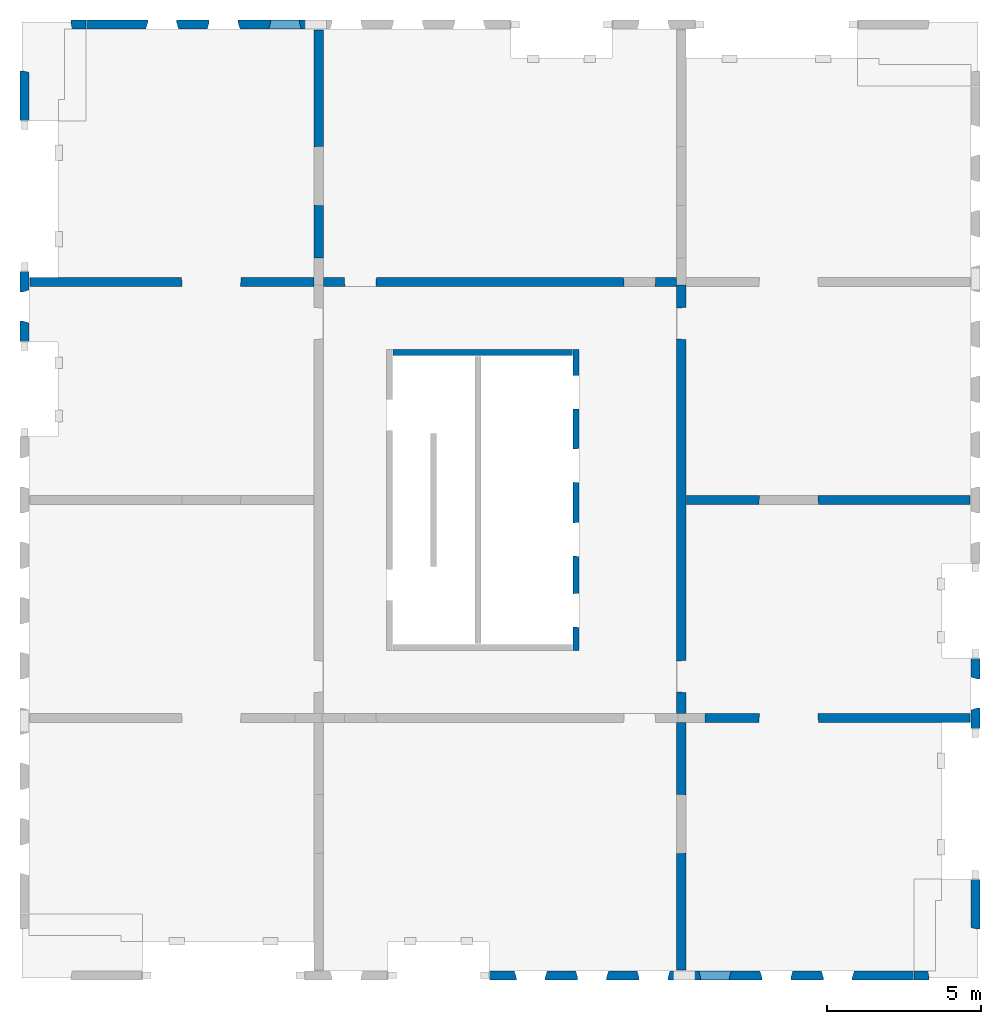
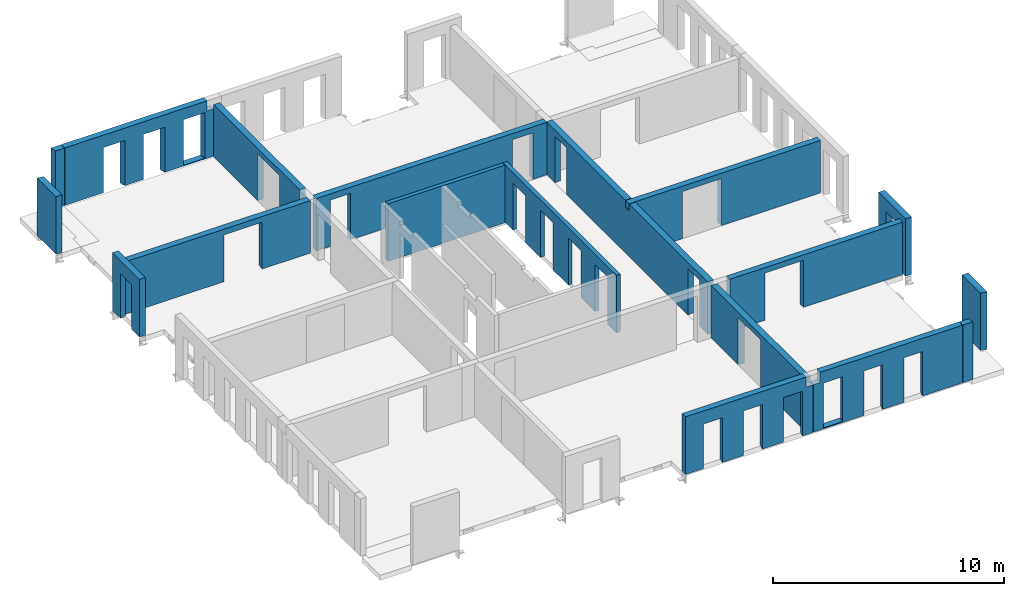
# One storey, part 3 of 4: 18 walls, 33 openings.
"""IFC2X3 building model written with IfcOpenShell, lengths in millimetres."""

import ifcopenshell
import ifcopenshell.guid

model = None  # the IFC model being written
_history = None  # IfcOwnerHistory: only IFC2X3 demands one
_inside = {}  # id of a spatial element -> (the spatial element, [elements in it])
_under = {}  # id of a project, library or spatial element -> (it, [spatial elements below it])
_declared = {}  # id of a project -> (the project, [libraries it declares])
_typed = {}  # id of a type object -> (the type object, [elements of that type])
_made_of = {}  # id of a material, layer set ... -> (it, [elements and type objects made of it])


def new_model(schema):
    """Start an empty IFC model of exactly this schema.

    Asked for "IFC4X3", IfcOpenShell would pick the latest addendum, in which some entities
    have other attributes; the version numbers below select the first issue.
    IFC2X3 requires an IfcOwnerHistory on every rooted entity: one is made here for all.
    """
    global model, _history
    if schema == "IFC4X3":
        model = ifcopenshell.file(schema_version=(4, 3, 0, 0))
    else:
        model = ifcopenshell.file(schema=schema)
    _inside.clear()
    _under.clear()
    _declared.clear()
    _typed.clear()
    _made_of.clear()
    _history = None
    if model.schema == "IFC2X3":
        org = make("IfcOrganization", Name="unknown")
        user = make(
            "IfcPersonAndOrganization",
            ThePerson=make("IfcPerson", FamilyName="unknown"),
            TheOrganization=org,
        )
        app = make(
            "IfcApplication",
            ApplicationDeveloper=org,
            Version="unknown",
            ApplicationFullName="unknown",
            ApplicationIdentifier="unknown",
        )
        _history = make(
            "IfcOwnerHistory",
            OwningUser=user,
            OwningApplication=app,
            ChangeAction="ADDED",
            CreationDate=0,
        )
    return model


def make(cls, **values):
    """One entity of the class cls with the attributes given. An attribute that is None is left unset."""
    return model.create_entity(
        cls, **{name: value for name, value in values.items() if value is not None}
    )


def entity(cls, *values):
    """Any entity or typed value of the class cls, its attributes in the order of the schema. None: left unset."""
    e = model.create_entity(cls)
    for i, value in enumerate(values):
        if value is not None:
            e[i] = value
    return e


def rooted(cls, **values):
    """An entity with a GlobalId (a new one), such as an element, a storey or a relation."""
    return make(cls, GlobalId=ifcopenshell.guid.new(), OwnerHistory=_history, **values)


def si_unit(unit_type, name, prefix=None):
    """IfcSIUnit, for example si_unit("LENGTHUNIT", "METRE", prefix="MILLI")."""
    return make("IfcSIUnit", UnitType=unit_type, Prefix=prefix, Name=name)


def converted_unit(unit_type, name, factor, base, dimensions=None, offset=None):
    """IfcConversionBasedUnit, such as the inch: factor (a typed value) times the base unit."""
    return make(
        "IfcConversionBasedUnit"
        if offset is None
        else "IfcConversionBasedUnitWithOffset",
        ConversionOffset=offset,
        Dimensions=None
        if dimensions is None
        else entity("IfcDimensionalExponents", *dimensions),
        UnitType=unit_type,
        Name=name,
        ConversionFactor=make(
            "IfcMeasureWithUnit", ValueComponent=factor, UnitComponent=base
        ),
    )


def derived_unit(unit_type, elements):
    """IfcDerivedUnit: a product of units, each with its exponent."""
    return make(
        "IfcDerivedUnit",
        Elements=[
            make("IfcDerivedUnitElement", Unit=unit, Exponent=power)
            for unit, power in elements
        ],
        UnitType=unit_type,
    )


def assignment(units):
    """IfcUnitAssignment: the units of a project."""
    return None if units is None else make("IfcUnitAssignment", Units=units)


def point(xyz):
    """IfcCartesianPoint."""
    return None if xyz is None else make("IfcCartesianPoint", Coordinates=xyz)


def direction(xyz):
    """IfcDirection."""
    return None if xyz is None else make("IfcDirection", DirectionRatios=xyz)


def frame(location, z_axis=None, x_axis=None):
    """IfcAxis2Placement3D, a coordinate frame: its origin and axes. An axis left out is left unset."""
    return make(
        "IfcAxis2Placement3D",
        Location=point(location),
        Axis=direction(z_axis),
        RefDirection=direction(x_axis),
    )


def frame_2d(location, x_axis=None):
    """IfcAxis2Placement2D, a coordinate frame in the plane: its origin and x axis."""
    return make(
        "IfcAxis2Placement2D", Location=point(location), RefDirection=direction(x_axis)
    )


def origin():
    """The frame at (0, 0, 0) with its axes left unset."""
    return frame((0.0, 0.0, 0.0))


def origin_2d_with_axis():
    """The frame at (0, 0) in the plane with the x axis (1, 0) written out."""
    return frame_2d((0.0, 0.0), x_axis=(1.0, 0.0))


def place(relative_to, where):
    """IfcLocalPlacement: puts the frame where relative to a parent placement (None: the world)."""
    return make(
        "IfcLocalPlacement", PlacementRelTo=relative_to, RelativePlacement=where
    )


def context(
    kind, dimensions, precision=None, world=None, true_north=None, identifier=None
):
    """IfcGeometricRepresentationContext, for example the 3D "Model" context."""
    return make(
        "IfcGeometricRepresentationContext",
        ContextIdentifier=identifier,
        ContextType=kind,
        CoordinateSpaceDimension=dimensions,
        Precision=precision,
        WorldCoordinateSystem=world,
        TrueNorth=true_north,
    )


def subcontext(parent, identifier, kind, view, scale=None):
    """IfcGeometricRepresentationSubContext, for example "Body" below "Model"."""
    return make(
        "IfcGeometricRepresentationSubContext",
        ContextIdentifier=identifier,
        ContextType=kind,
        ParentContext=parent,
        TargetScale=scale,
        TargetView=view,
    )


def project(units=None, contexts=None):
    """IfcProject with its units and contexts."""
    return rooted(
        "IfcProject",
        Name="project",
        RepresentationContexts=contexts,
        UnitsInContext=assignment(units),
    )


def spatial(cls, under=None, at=None, **own):
    """A site, building, storey or space (cls), placed at a placement, below another one or the project."""
    s = rooted(cls, ObjectPlacement=at, **own)
    if under is not None:
        _under.setdefault(under.id(), (under, []))[1].append(s)
    return s


def profile(cls, at=None, kind="AREA", **sizes):
    """A parametric profile (cls). Its sizes go by their IFC names, for example OverallWidth=200.0."""
    return make(cls, ProfileType=kind, Position=at, **sizes)


def rectangle(**sizes):
    """IfcRectangleProfileDef."""
    return profile("IfcRectangleProfileDef", **sizes)


def extrude(swept, where, along, depth):
    """IfcExtrudedAreaSolid: the profile swept, set in the frame where, extruded along a direction by depth."""
    return make(
        "IfcExtrudedAreaSolid",
        SweptArea=swept,
        Position=where,
        ExtrudedDirection=direction(along),
        Depth=depth,
    )


def faces_of(points, faces, orient=None, outer=None):
    """IfcFace entities. A face is a list of loops; a loop is a list of indices into points, from 0.

    orient and outer hold one flag for each loop. By default every Orientation is true, the
    first loop of a face is its IfcFaceOuterBound and the others are IfcFaceBound.
    """
    made = []
    for i, loops in enumerate(faces):
        bounds = []
        for j, loop in enumerate(loops):
            is_outer = j == 0 if outer is None else outer[i][j]
            bounds.append(
                make(
                    "IfcFaceOuterBound" if is_outer else "IfcFaceBound",
                    Bound=make("IfcPolyLoop", Polygon=[points[k] for k in loop]),
                    Orientation=True if orient is None else orient[i][j],
                )
            )
        made.append(make("IfcFace", Bounds=bounds))
    return made


def faceted_brep(points, faces, orient=None, outer=None, voids=None):
    """IfcFacetedBrep: a solid bounded by flat faces; with voids (closed shells), ...WithVoids."""
    shared = [point(p) for p in points]
    hull = make("IfcClosedShell", CfsFaces=faces_of(shared, faces, orient, outer))
    if voids is None:
        return make("IfcFacetedBrep", Outer=hull)
    return make(
        "IfcFacetedBrepWithVoids",
        Outer=hull,
        Voids=[
            make(cls, CfsFaces=faces_of(shared, fs, o, b)) for cls, fs, o, b in voids
        ],
    )


def shape(context_of_items, identifier, shape_type, items):
    """IfcShapeRepresentation: the items that make up one representation, for example the "Body"."""
    return make(
        "IfcShapeRepresentation",
        ContextOfItems=context_of_items,
        RepresentationIdentifier=identifier,
        RepresentationType=shape_type,
        Items=items,
    )


def material(Name=None, Category=None):
    """IfcMaterial."""
    return make("IfcMaterial", Name=Name, Category=Category)


def layer(
    of_material, thickness, ventilated=None, Name=None, Category=None, Priority=None
):
    """IfcMaterialLayer: one layer of a wall or slab, of a material (None: an air gap)."""
    return make(
        "IfcMaterialLayer",
        Material=of_material,
        LayerThickness=thickness,
        IsVentilated=ventilated,
        Name=Name,
        Category=Category,
        Priority=Priority,
    )


def layer_set(layers, Name=None):
    """IfcMaterialLayerSet."""
    return make("IfcMaterialLayerSet", MaterialLayers=layers, LayerSetName=Name)


def layer_usage(for_layer_set, set_direction, sense, offset, extent=None):
    """IfcMaterialLayerSetUsage: how a layer set lies in its element."""
    return make(
        "IfcMaterialLayerSetUsage",
        ForLayerSet=for_layer_set,
        LayerSetDirection=set_direction,
        DirectionSense=sense,
        OffsetFromReferenceLine=offset,
        ReferenceExtent=extent,
    )


def made_of(thing, what):
    """Note that an element or type object is made of a material, layer set ...; save() writes the relation."""
    if what is not None:
        _made_of.setdefault(what.id(), (what, []))[1].append(thing)
    return thing


def type_object(cls, material=None, **own):
    """A type object (cls), such as IfcWallType, which elements share."""
    return made_of(rooted(cls, **own), material)


def element(
    cls,
    number,
    at=None,
    inside=None,
    cuts=None,
    type_object=None,
    material=None,
    context=None,
    identifier="Body",
    shape_type=None,
    held_by="IfcProductDefinitionShape",
    body=None,
    shapes=None,
    **own,
):
    """One element of the class cls, such as IfcWall. Its Tag is "e" and its number.

    at: its placement. inside: the storey or other place that contains it. cuts: it is an
    opening in that element (IfcRelVoidsElement). A single representation is given by context,
    identifier, shape_type and body (its items); several are given by shapes. held_by: the class
    of the entity that holds the representations. save() writes the other relations.
    """
    e = rooted(cls, Tag="e%d" % number, ObjectPlacement=at, **own)
    if body is not None:
        shapes = [shape(context, identifier, shape_type, body)]
    if shapes is not None:
        e.Representation = make(held_by, Representations=shapes)
    if inside is not None:
        _inside.setdefault(inside.id(), (inside, []))[1].append(e)
    if cuts is not None:
        rooted(
            "IfcRelVoidsElement", RelatingBuildingElement=cuts, RelatedOpeningElement=e
        )
    if type_object is not None:
        _typed.setdefault(type_object.id(), (type_object, []))[1].append(e)
    return made_of(e, material)


def aggregate(whole, parts):
    """IfcRelAggregates: a whole, such as a stair, and the parts it consists of."""
    return rooted("IfcRelAggregates", RelatingObject=whole, RelatedObjects=parts)


def save(model, path):
    """Write the relations noted so far, then the file.

    IfcRelAggregates (storeys below a building ...), IfcRelContainedInSpatialStructure (elements
    in a storey), IfcRelDefinesByType, IfcRelAssociatesMaterial and IfcRelDeclares: one each for
    every whole, place, type object, material and project.
    """
    for whole, parts in _under.values():
        aggregate(whole, parts)
    for where, things in _inside.values():
        rooted(
            "IfcRelContainedInSpatialStructure",
            RelatedElements=things,
            RelatingStructure=where,
        )
    for kind, things in _typed.values():
        rooted("IfcRelDefinesByType", RelatedObjects=things, RelatingType=kind)
    for what, things in _made_of.values():
        rooted("IfcRelAssociatesMaterial", RelatedObjects=things, RelatingMaterial=what)
    for by, libraries in _declared.values():
        rooted("IfcRelDeclares", RelatingContext=by, RelatedDefinitions=libraries)
    model.write(path)


model = new_model("IFC2X3")

# Units and contexts
model_context = context("Model", 3, precision=0.01, world=origin(), true_north=direction((6.12303176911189e-17, 1.0)))
body_context = subcontext(model_context, "Body", "Model", "MODEL_VIEW")
ifc_project = project(units=[si_unit("LENGTHUNIT", "METRE", prefix="MILLI"), si_unit("AREAUNIT", "SQUARE_METRE"), si_unit("VOLUMEUNIT", "CUBIC_METRE"), converted_unit("PLANEANGLEUNIT", "DEGREE", entity("IfcRatioMeasure", 0.0174532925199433), si_unit("PLANEANGLEUNIT", "RADIAN"), dimensions=[0, 0, 0, 0, 0, 0, 0]), si_unit("MASSUNIT", "GRAM", prefix="KILO"), derived_unit("MASSDENSITYUNIT", [(si_unit("MASSUNIT", "GRAM", prefix="KILO"), 1), (si_unit("LENGTHUNIT", "METRE"), -3)]), si_unit("TIMEUNIT", "SECOND"), si_unit("FREQUENCYUNIT", "HERTZ"), si_unit("THERMODYNAMICTEMPERATUREUNIT", "DEGREE_CELSIUS"), derived_unit("THERMALTRANSMITTANCEUNIT", [(si_unit("MASSUNIT", "GRAM", prefix="KILO"), 1), (si_unit("THERMODYNAMICTEMPERATUREUNIT", "KELVIN"), -1), (si_unit("TIMEUNIT", "SECOND"), -3)]), derived_unit("VOLUMETRICFLOWRATEUNIT", [(si_unit("LENGTHUNIT", "METRE"), 3), (si_unit("TIMEUNIT", "SECOND"), -1)]), si_unit("ELECTRICCURRENTUNIT", "AMPERE"), si_unit("ELECTRICVOLTAGEUNIT", "VOLT"), si_unit("POWERUNIT", "WATT"), si_unit("FORCEUNIT", "NEWTON", prefix="KILO"), si_unit("ILLUMINANCEUNIT", "LUX"), si_unit("LUMINOUSFLUXUNIT", "LUMEN"), si_unit("LUMINOUSINTENSITYUNIT", "CANDELA"), derived_unit("USERDEFINED", [(si_unit("MASSUNIT", "GRAM", prefix="KILO"), -1), (si_unit("LENGTHUNIT", "METRE"), -2), (si_unit("TIMEUNIT", "SECOND"), 3), (si_unit("LUMINOUSFLUXUNIT", "LUMEN"), 1)]), derived_unit("LINEARVELOCITYUNIT", [(si_unit("LENGTHUNIT", "METRE"), 1), (si_unit("TIMEUNIT", "SECOND"), -1)]), si_unit("PRESSUREUNIT", "PASCAL"), derived_unit("USERDEFINED", [(si_unit("LENGTHUNIT", "METRE"), -2), (si_unit("MASSUNIT", "GRAM", prefix="KILO"), 1), (si_unit("TIMEUNIT", "SECOND"), -2)])], contexts=[model_context])

# Site, building, storey
site_placement = place(None, origin())
site = spatial("IfcSite", under=ifc_project, at=site_placement, Name="Default", CompositionType="ELEMENT")
building_placement = place(site_placement, origin())
building = spatial("IfcBuilding", under=site, at=building_placement, Name="niet gebruiken", CompositionType="ELEMENT")
storey_placement = place(building_placement, frame((0.0, 0.0, 131220.0)))
storey = spatial("IfcBuildingStorey", under=building, at=storey_placement, Name="42 tweeënveertigste verdieping", CompositionType="ELEMENT", Elevation=131220.0)

# Wall, openings
ifc_material = material(Name="NLRS_f2_beton prefab")
ifc_layer_1 = layer(ifc_material, 200.0)
ifc_layer_set_1 = layer_set([ifc_layer_1], Name="Basic Wall:NLRS_22.21_WA_beton prefab d=200_gen")
ifc_layer_usage_1 = layer_usage(ifc_layer_set_1, "AXIS2", "NEGATIVE", 100.0)
wall_type_1 = type_object("IfcWallType", Name="Basic Wall:NLRS_22.21_WA_beton prefab d=200_gen", PredefinedType="STANDARD", material=ifc_layer_set_1)
wall_1_placement = place(storey_placement, frame((144230.0, 22400.0, -50.0), z_axis=(0.0, 0.0, 1.0), x_axis=(0.0, -1.0, 0.0)))
wall_1 = element("IfcWallStandardCase", 1, at=wall_1_placement, inside=storey, type_object=wall_type_1, material=ifc_layer_usage_1, Name="Basic Wall:NLRS_22.21_WA_beton prefab d=200_gen", ObjectType="Basic Wall:NLRS_22.21_WA_beton prefab d=200_gen", context=body_context, shape_type="SweptSolid", body=[
    extrude(rectangle(XDim=9800.0, YDim=199.999999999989, at=frame_2d((4900.0, -3.69482222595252e-13), x_axis=(-1.0, 0.0))), origin(), (0.0, 0.0, 1.0), 3040.0),
])
opening_1_placement = place(wall_1_placement, frame((9047.0, -100.0, 0.0)))
element("IfcOpeningElement", 2, at=opening_1_placement, cuts=wall_1, Name="Basic Wall:NLRS_22.21_WA_beton prefab d=200_gen", ObjectType="Opening", context=body_context, shape_type="Brep", body=[
    faceted_brep([(-1104.0, 200.0, 2502.0), (-1104.0, 200.0, 0.0), (-1092.0, 0.0, 0.0), (-1092.0, 0.0, 2490.0), (0.0, 200.0, 0.0), (-12.0, 0.0, 0.0), (-12.0, 0.0, 2490.0), (0.0, 200.0, 2502.0)], [[[0, 1, 2, 3]], [[1, 4, 5, 2]], [[6, 3, 2, 5]], [[7, 4, 1, 0]], [[7, 0, 3, 6]], [[4, 7, 6, 5]]]),
])
opening_2_placement = place(wall_1_placement, frame((6737.0, -100.0, 0.0)))
element("IfcOpeningElement", 3, at=opening_2_placement, cuts=wall_1, Name="Basic Wall:NLRS_22.21_WA_beton prefab d=200_gen", ObjectType="Opening", context=body_context, shape_type="Brep", body=[
    faceted_brep([(-1104.0, 200.0, 2502.0), (-1104.0, 200.0, 0.0), (-1092.0, 0.0, 0.0), (-1092.0, 0.0, 2490.0), (0.0, 200.0, 0.0), (-12.0, 0.0, 0.0), (-12.0, 0.0, 2490.0), (0.0, 200.0, 2502.0)], [[[0, 1, 2, 3]], [[1, 4, 5, 2]], [[6, 3, 2, 5]], [[7, 4, 1, 0]], [[7, 0, 3, 6]], [[4, 7, 6, 5]]]),
])
opening_3_placement = place(wall_1_placement, frame((4332.0, -100.0, 0.0)))
element("IfcOpeningElement", 4, at=opening_3_placement, cuts=wall_1, Name="Basic Wall:NLRS_22.21_WA_beton prefab d=200_gen", ObjectType="Opening", context=body_context, shape_type="Brep", body=[
    faceted_brep([(-1104.0, 200.0, 2502.0), (-1104.0, 200.0, 0.0), (-1092.0, 0.0, 0.0), (-1092.0, 0.0, 2490.0), (0.0, 200.0, 0.0), (-12.0, 0.0, 0.0), (-12.0, 0.0, 2490.0), (0.0, 200.0, 2502.0)], [[[0, 1, 2, 3]], [[1, 4, 5, 2]], [[6, 3, 2, 5]], [[7, 4, 1, 0]], [[7, 0, 3, 6]], [[4, 7, 6, 5]]]),
])
opening_4_placement = place(wall_1_placement, frame((1942.0, -100.0, 0.0)))
element("IfcOpeningElement", 5, at=opening_4_placement, cuts=wall_1, Name="Basic Wall:NLRS_22.21_WA_beton prefab d=200_gen", ObjectType="Opening", context=body_context, shape_type="Brep", body=[
    faceted_brep([(-1104.0, 200.0, 2502.0), (-1104.0, 200.0, 0.0), (-1092.0, 0.0, 0.0), (-1092.0, 0.0, 2490.0), (0.0, 200.0, 0.0), (-12.0, 0.0, 0.0), (-12.0, 0.0, 2490.0), (0.0, 200.0, 2502.0)], [[[0, 1, 2, 3]], [[1, 4, 5, 2]], [[6, 3, 2, 5]], [[7, 4, 1, 0]], [[7, 0, 3, 6]], [[4, 7, 6, 5]]]),
])

# Wall
ifc_layer_usage_2 = layer_usage(ifc_layer_set_1, "AXIS2", "NEGATIVE", 100.0)
wall_2_placement = place(storey_placement, frame((138270.0, 22300.0, -50.0)))
element("IfcWallStandardCase", 6, at=wall_2_placement, inside=storey, type_object=wall_type_1, material=ifc_layer_usage_2, Name="Basic Wall:NLRS_22.21_WA_beton prefab d=200_gen", ObjectType="Basic Wall:NLRS_22.21_WA_beton prefab d=200_gen", context=body_context, shape_type="SweptSolid", body=[
    extrude(rectangle(XDim=5839.99999999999, YDim=199.999999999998, at=frame_2d((2919.99999999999, -7.60280727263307e-13), x_axis=(-1.0, 0.0))), origin(), (0.0, 0.0, 1.0), 3040.0),
])

# Wall, opening
ifc_layer_2 = layer(ifc_material, 300.0)
ifc_layer_set_2 = layer_set([ifc_layer_2], Name="Basic Wall:NLRS_22.21_WA_beton prefab d=300_gen")
ifc_layer_usage_3 = layer_usage(ifc_layer_set_2, "AXIS2", "NEGATIVE", 150.0)
wall_type_2 = type_object("IfcWallType", Name="Basic Wall:NLRS_22.21_WA_beton prefab d=300_gen", PredefinedType="STANDARD", material=ifc_layer_set_2)
wall_3_placement = place(storey_placement, frame((147650.0, 10250.0, -70.0), z_axis=(0.0, 0.0, 1.0), x_axis=(0.0, -1.0, 0.0)))
wall_3 = element("IfcWallStandardCase", 7, at=wall_3_placement, inside=storey, type_object=wall_type_2, material=ifc_layer_usage_3, Name="Basic Wall:NLRS_22.21_WA_beton prefab d=300_gen", ObjectType="Basic Wall:NLRS_22.21_WA_beton prefab d=300_gen", context=body_context, shape_type="SweptSolid", body=[
    extrude(rectangle(XDim=8059.99999999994, YDim=300.000000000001, at=frame_2d((4029.99999999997, 3.69482222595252e-13), x_axis=(-1.0, 0.0))), origin(), (0.0, 0.0, 1.0), 2769.99999999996),
])
opening_5_placement = place(wall_3_placement, frame((4268.0, -150.0, 0.0)))
element("IfcOpeningElement", 8, at=opening_5_placement, cuts=wall_3, Name="Basic Wall:NLRS_22.21_WA_beton prefab d=300_gen", ObjectType="Opening", context=body_context, shape_type="Brep", body=[
    faceted_brep([(-18.0, 300.0, 2470.0), (-18.0, 300.0, 0.0), (-1918.0, 300.0, 0.0), (-1918.0, 300.0, 2470.0), (0.0, 0.0, 2488.0), (-1936.0, 0.0, 2488.0), (-1936.0, 0.0, 0.0), (0.0, 0.0, 0.0)], [[[0, 1, 2, 3]], [[4, 5, 6, 7]], [[4, 0, 3, 5]], [[5, 3, 2, 6]], [[6, 2, 1, 7]], [[7, 1, 0, 4]]]),
])

# Wall, openings
ifc_layer_usage_4 = layer_usage(ifc_layer_set_2, "AXIS2", "NEGATIVE", 150.0)
wall_4_placement = place(storey_placement, frame((157060.0, 17500.0, -70.0), z_axis=(0.0, 0.0, 1.0), x_axis=(-1.0, 0.0, 0.0)))
wall_4 = element("IfcWallStandardCase", 9, at=wall_4_placement, inside=storey, type_object=wall_type_2, material=ifc_layer_usage_4, Name="Basic Wall:NLRS_22.21_WA_beton prefab d=300_gen", ObjectType="Basic Wall:NLRS_22.21_WA_beton prefab d=300_gen", context=body_context, shape_type="SweptSolid", body=[
    extrude(rectangle(XDim=9559.9999999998, YDim=300.000000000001, at=frame_2d((4779.9999999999, -1.84741111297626e-13), x_axis=(-1.0, 0.0))), origin(), (0.0, 0.0, 1.0), 2770.00000000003),
])
opening_6_placement = place(wall_4_placement, frame((6878.0, 150.0, 0.0)))
element("IfcOpeningElement", 10, at=opening_6_placement, cuts=wall_4, Name="Basic Wall:NLRS_22.21_WA_beton prefab d=300_gen", ObjectType="Opening", context=body_context, shape_type="Brep", body=[
    faceted_brep([(-18.0, -300.0, 2470.0), (-1918.0, -300.0, 2470.0), (-1918.0, -300.0, 0.0), (-18.0, -300.0, 0.0), (0.0, 0.0, 2488.0), (0.0, 0.0, 0.0), (-1936.0, 0.0, 0.0), (-1936.0, 0.0, 2488.0)], [[[0, 1, 2, 3]], [[4, 5, 6, 7]], [[4, 7, 1, 0]], [[7, 6, 2, 1]], [[6, 5, 3, 2]], [[5, 4, 0, 3]]]),
])
opening_7_placement = place(wall_4_placement, origin())
element("IfcOpeningElement", 11, at=opening_7_placement, cuts=wall_4, Name="Basic Wall:NLRS_22.21_WA_beton prefab d=300_gen", ObjectType="Opening", context=body_context, shape_type="SweptSolid", body=[
    extrude(rectangle(XDim=2440.0, YDim=319.999999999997, at=frame_2d((0.0, 0.0), x_axis=(0.0, 1.0))), frame((9400.0, 150.0, 1220.0), z_axis=(0.0, -1.0, 0.0), x_axis=(1.0, 0.0, 0.0)), (0.0, 0.0, 1.0), 300.0),
])

# Wall, opening
ifc_layer_usage_5 = layer_usage(ifc_layer_set_2, "AXIS2", "NEGATIVE", 150.0)
wall_5_placement = place(storey_placement, frame((135700.0, 24600.0, -70.0), z_axis=(0.0, 0.0, 1.0), x_axis=(-1.0, 0.0, 0.0)))
wall_5 = element("IfcWallStandardCase", 12, at=wall_5_placement, inside=storey, type_object=wall_type_2, material=ifc_layer_usage_5, Name="Basic Wall:NLRS_22.21_WA_beton prefab d=300_gen", ObjectType="Basic Wall:NLRS_22.21_WA_beton prefab d=300_gen", context=body_context, shape_type="SweptSolid", body=[
    extrude(rectangle(XDim=9259.99999999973, YDim=300.000000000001, at=frame_2d((4629.99999999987, -2.41584530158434e-13), x_axis=(-1.0, 0.0))), origin(), (0.0, 0.0, 1.0), 2769.99999999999),
])
opening_8_placement = place(wall_5_placement, frame((4318.0, 150.0, 0.0)))
element("IfcOpeningElement", 13, at=opening_8_placement, cuts=wall_5, Name="Basic Wall:NLRS_22.21_WA_beton prefab d=300_gen", ObjectType="Opening", context=body_context, shape_type="Brep", body=[
    faceted_brep([(-1918.0, 0.0, 2470.0), (-18.0, 0.0, 2470.0), (-18.0, 0.0, 0.0), (-1918.0, 0.0, 0.0), (-1936.0, -300.0, 2488.0), (-1936.0, -300.0, 0.0), (0.0, -300.0, 0.0), (0.0, -300.0, 2488.0)], [[[0, 1, 2, 3]], [[4, 5, 6, 7]], [[4, 7, 1, 0]], [[7, 6, 2, 1]], [[6, 5, 3, 2]], [[5, 4, 0, 3]]]),
])

ifc_layer_usage_6 = layer_usage(ifc_layer_set_2, "AXIS2", "NEGATIVE", 150.0)
wall_6_placement = place(storey_placement, frame((148430.0, 10400.0, -70.0)))
wall_6 = element("IfcWallStandardCase", 14, at=wall_6_placement, inside=storey, type_object=wall_type_2, material=ifc_layer_usage_6, Name="Basic Wall:NLRS_22.21_WA_beton prefab d=300_gen", ObjectType="Basic Wall:NLRS_22.21_WA_beton prefab d=300_gen", context=body_context, shape_type="SweptSolid", body=[
    extrude(rectangle(XDim=8630.00000000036, YDim=300.000000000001, at=frame_2d((4315.00000000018, 0.0), x_axis=(-1.0, 0.0))), origin(), (0.0, 0.0, 1.0), 2769.99999999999),
])
opening_9_placement = place(wall_6_placement, frame((1752.0, -150.0, 0.0)))
element("IfcOpeningElement", 15, at=opening_9_placement, cuts=wall_6, Name="Basic Wall:NLRS_22.21_WA_beton prefab d=300_gen", ObjectType="Opening", context=body_context, shape_type="Brep", body=[
    faceted_brep([(18.0, 300.0, 2470.0), (1918.0, 300.0, 2470.0), (1918.0, 300.0, 0.0), (18.0, 300.0, 0.0), (0.0, 0.0, 2488.0), (0.0, 0.0, 0.0), (1936.0, 0.0, 0.0), (1936.0, 0.0, 2488.0)], [[[0, 1, 2, 3]], [[4, 5, 6, 7]], [[4, 7, 1, 0]], [[7, 6, 2, 1]], [[6, 5, 3, 2]], [[5, 4, 0, 3]]]),
])

ifc_layer_usage_7 = layer_usage(ifc_layer_set_2, "AXIS2", "NEGATIVE", 150.0)
wall_7_placement = place(storey_placement, frame((135850.0, 25380.0, -70.0), z_axis=(0.0, 0.0, 1.0), x_axis=(0.0, 1.0, 0.0)))
wall_7 = element("IfcWallStandardCase", 16, at=wall_7_placement, inside=storey, type_object=wall_type_2, material=ifc_layer_usage_7, Name="Basic Wall:NLRS_22.21_WA_beton prefab d=300_gen", ObjectType="Basic Wall:NLRS_22.21_WA_beton prefab d=300_gen", context=body_context, shape_type="SweptSolid", body=[
    extrude(rectangle(XDim=7430.00000000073, YDim=300.000000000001, at=frame_2d((3715.00000000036, -5.62749846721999e-12), x_axis=(-1.0, 0.0))), origin(), (0.0, 0.0, 1.0), 2769.99999999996),
])
opening_10_placement = place(wall_7_placement, frame((1702.0, 150.0, 0.0)))
element("IfcOpeningElement", 17, at=opening_10_placement, cuts=wall_7, Name="Basic Wall:NLRS_22.21_WA_beton prefab d=300_gen", ObjectType="Opening", context=body_context, shape_type="Brep", body=[
    faceted_brep([(1918.0, 0.0, 2470.0), (1918.0, 0.0, 0.0), (18.0, 0.0, 0.0), (18.0, 0.0, 2470.0), (1936.0, -300.0, 2488.0), (0.0, -300.0, 2488.0), (0.0, -300.0, 0.0), (1936.0, -300.0, 0.0)], [[[0, 1, 2, 3]], [[4, 5, 6, 7]], [[4, 0, 3, 5]], [[5, 3, 2, 6]], [[6, 2, 1, 7]], [[7, 1, 0, 4]]]),
])

# Wall, openings
ifc_layer_usage_8 = layer_usage(ifc_layer_set_2, "AXIS2", "NEGATIVE", 150.0)
wall_8_placement = place(storey_placement, frame((147650.0, 24500.0, -70.0), z_axis=(0.0, 0.0, 1.0), x_axis=(0.0, -1.0, 0.0)))
wall_8 = element("IfcWallStandardCase", 18, at=wall_8_placement, inside=storey, type_object=wall_type_2, material=ifc_layer_usage_8, Name="Basic Wall:NLRS_22.21_WA_beton prefab d=300_gen", ObjectType="Basic Wall:NLRS_22.21_WA_beton prefab d=300_gen", context=body_context, shape_type="SweptSolid", body=[
    extrude(rectangle(XDim=13949.9999999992, YDim=300.000000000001, at=frame_2d((6974.9999999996, 4.2632564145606e-14), x_axis=(-1.0, 0.0))), origin(), (0.0, 0.0, 1.0), 2770.00000000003),
])
opening_11_placement = place(wall_8_placement, frame((13268.0, -150.0, 0.0)))
element("IfcOpeningElement", 19, at=opening_11_placement, cuts=wall_8, Name="Basic Wall:NLRS_22.21_WA_beton prefab d=300_gen", ObjectType="Opening", context=body_context, shape_type="Brep", body=[
    faceted_brep([(-1042.0, 300.0, 2466.0), (-1042.0, 300.0, 0.0), (-1024.0, 0.0, 0.0), (-1024.0, 0.0, 2448.0), (0.0, 300.0, 0.0), (-18.0, 0.0, 0.0), (-18.0, 0.0, 2448.0), (0.0, 300.0, 2466.0)], [[[0, 1, 2, 3]], [[1, 4, 5, 2]], [[6, 3, 2, 5]], [[7, 4, 1, 0]], [[7, 0, 3, 6]], [[4, 7, 6, 5]]]),
])
opening_12_placement = place(wall_8_placement, frame((1774.0, -150.0, 0.0)))
element("IfcOpeningElement", 20, at=opening_12_placement, cuts=wall_8, Name="Basic Wall:NLRS_22.21_WA_beton prefab d=300_gen", ObjectType="Opening", context=body_context, shape_type="Brep", body=[
    faceted_brep([(-1042.0, 300.0, 2466.0), (-1042.0, 300.0, 0.0), (-1024.0, 0.0, 0.0), (-1024.0, 0.0, 2448.0), (0.0, 300.0, 0.0), (-18.0, 0.0, 0.0), (-18.0, 0.0, 2448.0), (0.0, 300.0, 2466.0)], [[[0, 1, 2, 3]], [[1, 4, 5, 2]], [[6, 3, 2, 5]], [[7, 4, 1, 0]], [[7, 0, 3, 6]], [[4, 7, 6, 5]]]),
])
opening_13_placement = place(wall_8_placement, origin())
element("IfcOpeningElement", 21, at=opening_13_placement, cuts=wall_8, Name="Basic Wall:NLRS_22.21_WA_beton prefab d=300_gen", ObjectType="Opening", context=body_context, shape_type="SweptSolid", body=[
    extrude(rectangle(XDim=350.000000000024, YDim=340.000000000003, at=frame_2d((-1.08002495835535e-12, -1.73230318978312e-11), x_axis=(0.0, 1.0))), frame((7000.0, 150.0, 2595.0), z_axis=(0.0, -1.0, 0.0), x_axis=(-1.0, 0.0, 0.0)), (0.0, 0.0, 1.0), 300.0),
])

ifc_layer_usage_9 = layer_usage(ifc_layer_set_2, "AXIS2", "NEGATIVE", 150.0)
wall_9_placement = place(storey_placement, frame((136000.0, 24600.0, -70.0)))
wall_9 = element("IfcWallStandardCase", 22, at=wall_9_placement, inside=storey, type_object=wall_type_2, material=ifc_layer_usage_9, Name="Basic Wall:NLRS_22.21_WA_beton prefab d=300_gen", ObjectType="Basic Wall:NLRS_22.21_WA_beton prefab d=300_gen", context=body_context, shape_type="SweptSolid", body=[
    extrude(rectangle(XDim=11500.0, YDim=300.000000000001, at=frame_2d((5750.0, -1.08002495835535e-12), x_axis=(-1.0, 0.0))), origin(), (0.0, 0.0, 1.0), 2769.99999999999),
])
opening_14_placement = place(wall_9_placement, frame((682.0, -150.0, 0.0)))
element("IfcOpeningElement", 23, at=opening_14_placement, cuts=wall_9, Name="Basic Wall:NLRS_22.21_WA_beton prefab d=300_gen", ObjectType="Opening", context=body_context, shape_type="Brep", body=[
    faceted_brep([(0.0, 300.0, 2466.0), (0.0, 300.0, 0.0), (18.0, 0.0, 0.0), (18.0, 0.0, 2448.0), (1042.0, 300.0, 0.0), (1024.0, 0.0, 0.0), (1024.0, 0.0, 2448.0), (1042.0, 300.0, 2466.0)], [[[0, 1, 2, 3]], [[1, 4, 5, 2]], [[6, 3, 2, 5]], [[7, 4, 1, 0]], [[7, 0, 3, 6]], [[4, 7, 6, 5]]]),
])
opening_15_placement = place(wall_9_placement, frame((9776.0, -150.0, 0.0)))
element("IfcOpeningElement", 24, at=opening_15_placement, cuts=wall_9, Name="Basic Wall:NLRS_22.21_WA_beton prefab d=300_gen", ObjectType="Opening", context=body_context, shape_type="Brep", body=[
    faceted_brep([(0.0, 300.0, 2466.0), (0.0, 300.0, 0.0), (18.0, 0.0, 0.0), (18.0, 0.0, 2448.0), (1042.0, 300.0, 0.0), (1024.0, 0.0, 0.0), (1024.0, 0.0, 2448.0), (1042.0, 300.0, 2466.0)], [[[0, 1, 2, 3]], [[1, 4, 5, 2]], [[6, 3, 2, 5]], [[7, 4, 1, 0]], [[7, 0, 3, 6]], [[4, 7, 6, 5]]]),
])

# Wall, opening
ifc_layer_3 = layer(ifc_material, 300.0)
ifc_layer_set_3 = layer_set([ifc_layer_3], Name="Basic Wall:NLRS_21.21_WA_beton prefab d=300/320_gen")
ifc_layer_usage_10 = layer_usage(ifc_layer_set_3, "AXIS2", "NEGATIVE", 150.0)
wall_type_3 = type_object("IfcWallType", Name="Basic Wall:NLRS_21.21_WA_beton prefab d=300/320_gen", PredefinedType="STANDARD", material=ifc_layer_set_3)
wall_10_placement = place(storey_placement, frame((157230.0, 12360.0, -50.0), z_axis=(0.0, 0.0, 1.0), x_axis=(0.0, -1.0, 0.0)))
wall_10 = element("IfcWallStandardCase", 25, at=wall_10_placement, inside=storey, type_object=wall_type_3, material=ifc_layer_usage_10, Name="Basic Wall:NLRS_21.21_WA_beton prefab d=300/320_gen", ObjectType="Basic Wall:NLRS_21.21_WA_beton prefab d=300/320_gen", context=body_context, shape_type="SweptSolid", body=[
    extrude(rectangle(XDim=2320.00000000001, YDim=300.000000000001, at=frame_2d((1160.0, -8.38440428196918e-12), x_axis=(-1.0, 0.0))), origin(), (0.0, 0.0, 1.0), 3040.0),
])
opening_16_placement = place(wall_10_placement, frame((1695.0, -150.0, -20.0)))
element("IfcOpeningElement", 26, at=opening_16_placement, cuts=wall_10, Name="Basic Wall:NLRS_21.21_WA_beton prefab d=300/320_gen", ObjectType="Opening", context=body_context, shape_type="Brep", body=[
    faceted_brep([(-1070.0, 0.0, 2405.0), (-1070.0, 0.0, 0.0), (0.0, 0.0, 0.0), (0.0, 0.0, 2405.0), (-65.0, 219.0, 2370.0), (-1005.0, 219.0, 2370.0), (-65.0, 219.0, 0.0), (-1005.0, 219.0, 0.0), (-1005.0, 300.0, 0.0), (-65.0, 300.0, 0.0), (-1005.0, 300.0, 2370.0), (-65.0, 300.0, 2370.0)], [[[0, 1, 2, 3]], [[3, 4, 5, 0]], [[2, 6, 4, 3]], [[1, 7, 8, 9, 6, 2]], [[0, 5, 7, 1]], [[10, 11, 9, 8]], [[10, 5, 4, 11]], [[11, 4, 6, 9]], [[8, 7, 5, 10]]]),
])

ifc_layer_usage_11 = layer_usage(ifc_layer_set_3, "AXIS2", "NEGATIVE", 150.0)
wall_11_placement = place(storey_placement, frame((126270.0, 22640.0, -50.0), z_axis=(0.0, 0.0, 1.0), x_axis=(0.0, 1.0, 0.0)))
wall_11 = element("IfcWallStandardCase", 27, at=wall_11_placement, inside=storey, type_object=wall_type_3, material=ifc_layer_usage_11, Name="Basic Wall:NLRS_21.21_WA_beton prefab d=300/320_gen", ObjectType="Basic Wall:NLRS_21.21_WA_beton prefab d=300/320_gen", context=body_context, shape_type="SweptSolid", body=[
    extrude(rectangle(XDim=2320.0, YDim=300.000000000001, at=frame_2d((1160.0, -3.60955709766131e-12), x_axis=(-1.0, 0.0))), origin(), (0.0, 0.0, 1.0), 3040.0),
])
opening_17_placement = place(wall_11_placement, frame((625.0, 150.0, -20.0)))
element("IfcOpeningElement", 28, at=opening_17_placement, cuts=wall_11, Name="Basic Wall:NLRS_21.21_WA_beton prefab d=300/320_gen", ObjectType="Opening", context=body_context, shape_type="Brep", body=[
    faceted_brep([(0.0, -300.0, 2405.0), (0.0, -300.0, 0.0), (1070.0, -300.0, 0.0), (1070.0, -300.0, 2405.0), (1005.0, -81.0, 2370.0), (65.0, -81.0, 2370.0), (1005.0, -81.0, 0.0), (65.0, -81.0, 0.0), (65.0, 0.0, 0.0), (1005.0, 0.0, 0.0), (65.0, 0.0, 2370.0), (1005.0, 0.0, 2370.0)], [[[0, 1, 2, 3]], [[3, 4, 5, 0]], [[2, 6, 4, 3]], [[1, 7, 8, 9, 6, 2]], [[0, 5, 7, 1]], [[10, 11, 9, 8]], [[10, 5, 4, 11]], [[11, 4, 6, 9]], [[8, 7, 5, 10]]]),
])

# Wall, openings
ifc_layer_usage_12 = layer_usage(ifc_layer_set_3, "AXIS2", "NEGATIVE", 150.0)
wall_12_placement = place(storey_placement, frame((128290.0, 32980.0, -50.0)))
wall_12 = element("IfcWallStandardCase", 29, at=wall_12_placement, inside=storey, type_object=wall_type_3, material=ifc_layer_usage_12, Name="Basic Wall:NLRS_21.21_WA_beton prefab d=300/320_gen", ObjectType="Basic Wall:NLRS_21.21_WA_beton prefab d=300/320_gen", context=body_context, shape_type="SweptSolid", body=[
    extrude(rectangle(XDim=7449.9999999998, YDim=300.000000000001, at=frame_2d((3724.9999999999, 0.0), x_axis=(-1.0, 0.0))), origin(), (0.0, 0.0, 1.0), 3040.0),
])
opening_18_placement = place(wall_12_placement, frame((3925.0, -150.0, -20.0)))
element("IfcOpeningElement", 30, at=opening_18_placement, cuts=wall_12, Name="Basic Wall:NLRS_21.21_WA_beton prefab d=300/320_gen", ObjectType="Opening", context=body_context, shape_type="Brep", body=[
    faceted_brep([(1070.0, 0.0, 2405.0), (0.0, 0.0, 2405.0), (0.0, 0.0, 0.0), (1070.0, 0.0, 0.0), (1005.0, 219.0, 2370.0), (65.0, 219.0, 2370.0), (65.0, 219.0, 0.0), (65.0, 300.0, 0.0), (1005.0, 300.0, 0.0), (1005.0, 219.0, 0.0), (1005.0, 300.0, 2370.0), (65.0, 300.0, 2370.0)], [[[0, 1, 2, 3]], [[1, 0, 4, 5]], [[2, 1, 5, 6]], [[3, 2, 6, 7, 8, 9]], [[0, 3, 9, 4]], [[10, 8, 7, 11]], [[10, 11, 5, 4]], [[11, 7, 6, 5]], [[8, 10, 4, 9]]]),
])
opening_19_placement = place(wall_12_placement, frame((1925.0, -150.0, -20.0)))
element("IfcOpeningElement", 31, at=opening_19_placement, cuts=wall_12, Name="Basic Wall:NLRS_21.21_WA_beton prefab d=300/320_gen", ObjectType="Opening", context=body_context, shape_type="Brep", body=[
    faceted_brep([(1070.0, 0.0, 2405.0), (0.0, 0.0, 2405.0), (0.0, 0.0, 0.0), (1070.0, 0.0, 0.0), (1005.0, 219.0, 2370.0), (65.0, 219.0, 2370.0), (65.0, 219.0, 0.0), (65.0, 300.0, 0.0), (1005.0, 300.0, 0.0), (1005.0, 219.0, 0.0), (1005.0, 300.0, 2370.0), (65.0, 300.0, 2370.0)], [[[0, 1, 2, 3]], [[1, 0, 4, 5]], [[2, 1, 5, 6]], [[3, 2, 6, 7, 8, 9]], [[0, 3, 9, 4]], [[10, 8, 7, 11]], [[10, 11, 5, 4]], [[11, 7, 6, 5]], [[8, 10, 4, 9]]]),
])
opening_20_placement = place(wall_12_placement, frame((5925.0, -150.0, 50.0)))
element("IfcOpeningElement", 32, at=opening_20_placement, cuts=wall_12, Name="Basic Wall:NLRS_21.21_WA_beton prefab d=300/320_gen", ObjectType="Opening", context=body_context, shape_type="Brep", body=[
    faceted_brep([(1070.0, 0.0, 2405.0), (0.0, 0.0, 2405.0), (0.0, 0.0, 0.0), (1070.0, 0.0, 0.0), (1005.0, 219.0, 2370.0), (65.0, 219.0, 2370.0), (65.0, 219.0, 0.0), (65.0, 300.0, 0.0), (1005.0, 300.0, 0.0), (1005.0, 219.0, 0.0), (1005.0, 300.0, 2370.0), (65.0, 300.0, 2370.0)], [[[0, 1, 2, 3]], [[1, 0, 4, 5]], [[2, 1, 5, 6]], [[3, 2, 6, 7, 8, 9]], [[0, 3, 9, 4]], [[10, 8, 7, 11]], [[10, 11, 5, 4]], [[11, 7, 6, 5]], [[8, 10, 4, 9]]]),
])
opening_21_placement = place(wall_12_placement, origin())
element("IfcOpeningElement", 33, at=opening_21_placement, cuts=wall_12, Name="Basic Wall:NLRS_21.21_WA_beton prefab d=300/320_gen", ObjectType="Opening", context=body_context, shape_type="SweptSolid", body=[
    extrude(rectangle(XDim=535.0, YDim=344.999999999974, at=origin_2d_with_axis()), frame((7277.49999999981, 150.0, 2772.5), z_axis=(0.0, -1.0, 0.0), x_axis=(0.0, 0.0, 1.0)), (0.0, 0.0, 1.0), 300.0),
])

ifc_layer_usage_13 = layer_usage(ifc_layer_set_3, "AXIS2", "NEGATIVE", 150.0)
wall_13_placement = place(storey_placement, frame((155210.0, 2020.0, -50.0), z_axis=(0.0, 0.0, 1.0), x_axis=(-1.0, 0.0, 0.0)))
wall_13 = element("IfcWallStandardCase", 34, at=wall_13_placement, inside=storey, type_object=wall_type_3, material=ifc_layer_usage_13, Name="Basic Wall:NLRS_21.21_WA_beton prefab d=300/320_gen", ObjectType="Basic Wall:NLRS_21.21_WA_beton prefab d=300/320_gen", context=body_context, shape_type="SweptSolid", body=[
    extrude(rectangle(XDim=7449.99999999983, YDim=300.0, at=frame_2d((3724.99999999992, 5.6843418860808e-14), x_axis=(-1.0, 0.0))), origin(), (0.0, 0.0, 1.0), 3040.0),
])
opening_22_placement = place(wall_13_placement, frame((4995.0, 150.0, -20.0)))
element("IfcOpeningElement", 35, at=opening_22_placement, cuts=wall_13, Name="Basic Wall:NLRS_21.21_WA_beton prefab d=300/320_gen", ObjectType="Opening", context=body_context, shape_type="Brep", body=[
    faceted_brep([(0.0, -300.0, 2405.0), (-1070.0, -300.0, 2405.0), (-1070.0, -300.0, 0.0), (0.0, -300.0, 0.0), (-65.0, -81.0, 2370.0), (-1005.0, -81.0, 2370.0), (-1005.0, -81.0, 0.0), (-1005.0, 0.0, 0.0), (-65.0, 0.0, 0.0), (-65.0, -81.0, 0.0), (-65.0, 0.0, 2370.0), (-1005.0, 0.0, 2370.0)], [[[0, 1, 2, 3]], [[1, 0, 4, 5]], [[2, 1, 5, 6]], [[3, 2, 6, 7, 8, 9]], [[0, 3, 9, 4]], [[10, 8, 7, 11]], [[10, 11, 5, 4]], [[11, 7, 6, 5]], [[8, 10, 4, 9]]]),
])
opening_23_placement = place(wall_13_placement, frame((2995.0, 150.0, -20.0)))
element("IfcOpeningElement", 36, at=opening_23_placement, cuts=wall_13, Name="Basic Wall:NLRS_21.21_WA_beton prefab d=300/320_gen", ObjectType="Opening", context=body_context, shape_type="Brep", body=[
    faceted_brep([(0.0, -300.0, 2405.0), (-1070.0, -300.0, 2405.0), (-1070.0, -300.0, 0.0), (0.0, -300.0, 0.0), (-65.0, -81.0, 2370.0), (-1005.0, -81.0, 2370.0), (-1005.0, -81.0, 0.0), (-1005.0, 0.0, 0.0), (-65.0, 0.0, 0.0), (-65.0, -81.0, 0.0), (-65.0, 0.0, 2370.0), (-1005.0, 0.0, 2370.0)], [[[0, 1, 2, 3]], [[1, 0, 4, 5]], [[2, 1, 5, 6]], [[3, 2, 6, 7, 8, 9]], [[0, 3, 9, 4]], [[10, 8, 7, 11]], [[10, 11, 5, 4]], [[11, 7, 6, 5]], [[8, 10, 4, 9]]]),
])
opening_24_placement = place(wall_13_placement, frame((6995.0, 150.0, 50.0)))
element("IfcOpeningElement", 37, at=opening_24_placement, cuts=wall_13, Name="Basic Wall:NLRS_21.21_WA_beton prefab d=300/320_gen", ObjectType="Opening", context=body_context, shape_type="Brep", body=[
    faceted_brep([(0.0, -300.0, 2405.0), (-1070.0, -300.0, 2405.0), (-1070.0, -300.0, 0.0), (0.0, -300.0, 0.0), (-65.0, -81.0, 2370.0), (-1005.0, -81.0, 2370.0), (-1005.0, -81.0, 0.0), (-1005.0, 0.0, 0.0), (-65.0, 0.0, 0.0), (-65.0, -81.0, 0.0), (-65.0, 0.0, 2370.0), (-1005.0, 0.0, 2370.0)], [[[0, 1, 2, 3]], [[1, 0, 4, 5]], [[2, 1, 5, 6]], [[3, 2, 6, 7, 8, 9]], [[0, 3, 9, 4]], [[10, 8, 7, 11]], [[10, 11, 5, 4]], [[11, 7, 6, 5]], [[8, 10, 4, 9]]]),
])
opening_25_placement = place(wall_13_placement, origin())
element("IfcOpeningElement", 38, at=opening_25_placement, cuts=wall_13, Name="Basic Wall:NLRS_21.21_WA_beton prefab d=300/320_gen", ObjectType="Opening", context=body_context, shape_type="SweptSolid", body=[
    extrude(rectangle(XDim=535.0, YDim=344.999999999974, at=origin_2d_with_axis()), frame((7277.49999999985, 150.0, 2772.5), z_axis=(0.0, -1.0, 0.0), x_axis=(0.0, 0.0, 1.0)), (0.0, 0.0, 1.0), 300.0),
])

# Wall, opening
ifc_layer_usage_14 = layer_usage(ifc_layer_set_3, "AXIS2", "NEGATIVE", 150.0)
wall_14_placement = place(storey_placement, frame((127780.0, 32980.0, -50.0)))
wall_14 = element("IfcWallStandardCase", 39, at=wall_14_placement, inside=storey, type_object=wall_type_3, material=ifc_layer_usage_14, Name="Basic Wall:NLRS_21.21_WA_beton prefab d=300/320_gen", ObjectType="Basic Wall:NLRS_21.21_WA_beton prefab d=300/320_gen", context=body_context, shape_type="SweptSolid", body=[
    extrude(rectangle(XDim=489.999999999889, YDim=300.000000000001, at=frame_2d((244.999999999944, -6.67910171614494e-13), x_axis=(-1.0, 0.0))), origin(), (0.0, 0.0, 1.0), 3040.0),
])
opening_26_placement = place(wall_14_placement, frame((0.0, -250.0, 0.0)))
element("IfcOpeningElement", 40, at=opening_26_placement, cuts=wall_14, Name="Basic Wall:NLRS_21.21_WA_beton prefab d=300/320_gen", ObjectType="Opening", context=body_context, shape_type="Brep", body=[
    faceted_brep([(0.0, 0.0, 3040.0), (65.0, 0.0, 3040.0), (0.0, 319.0, 3040.0), (0.0, 0.0, 0.0), (0.0, 319.0, 0.0), (65.0, 0.0, 0.0)], [[[0, 1, 2]], [[3, 4, 5]], [[1, 0, 3, 5]], [[0, 2, 4, 3]], [[2, 1, 5, 4]]]),
])

ifc_layer_usage_15 = layer_usage(ifc_layer_set_3, "AXIS2", "NEGATIVE", 150.0)
wall_15_placement = place(storey_placement, frame((126270.0, 29840.0, -50.0), z_axis=(0.0, 0.0, 1.0), x_axis=(0.0, 1.0, 0.0)))
wall_15 = element("IfcWallStandardCase", 41, at=wall_15_placement, inside=storey, type_object=wall_type_3, material=ifc_layer_usage_15, Name="Basic Wall:NLRS_21.21_WA_beton prefab d=300/320_gen", ObjectType="Basic Wall:NLRS_21.21_WA_beton prefab d=300/320_gen", context=body_context, shape_type="SweptSolid", body=[
    extrude(rectangle(XDim=1629.99999999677, YDim=300.000000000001, at=frame_2d((814.999999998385, 8.95283847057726e-13), x_axis=(-1.0, 0.0))), origin(), (0.0, 0.0, 1.0), 3040.0),
])
opening_27_placement = place(wall_15_placement, frame((1565.0, 69.0, 0.0)))
element("IfcOpeningElement", 42, at=opening_27_placement, cuts=wall_15, Name="Basic Wall:NLRS_21.21_WA_beton prefab d=300/320_gen", ObjectType="Opening", context=body_context, shape_type="Brep", body=[
    faceted_brep([(65.0, -319.0, 3040.0), (65.0, 0.0, 3040.0), (0.0, -319.0, 3040.0), (65.0, -319.0, 0.0), (0.0, -319.0, 0.0), (65.0, 0.0, 0.0)], [[[0, 1, 2]], [[3, 4, 5]], [[2, 4, 3, 0]], [[0, 3, 5, 1]], [[1, 5, 4, 2]]]),
])

ifc_layer_usage_16 = layer_usage(ifc_layer_set_3, "AXIS2", "NEGATIVE", 150.0)
wall_16_placement = place(storey_placement, frame((155720.0, 2020.0, -50.0), z_axis=(0.0, 0.0, 1.0), x_axis=(-1.0, 0.0, 0.0)))
wall_16 = element("IfcWallStandardCase", 43, at=wall_16_placement, inside=storey, type_object=wall_type_3, material=ifc_layer_usage_16, Name="Basic Wall:NLRS_21.21_WA_beton prefab d=300/320_gen", ObjectType="Basic Wall:NLRS_21.21_WA_beton prefab d=300/320_gen", context=body_context, shape_type="SweptSolid", body=[
    extrude(rectangle(XDim=489.999999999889, YDim=300.0, at=frame_2d((244.999999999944, 4.2632564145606e-14), x_axis=(-1.0, 0.0))), origin(), (0.0, 0.0, 1.0), 3040.0),
])
opening_28_placement = place(wall_16_placement, frame((65.0, 69.0, 0.0)))
element("IfcOpeningElement", 44, at=opening_28_placement, cuts=wall_16, Name="Basic Wall:NLRS_21.21_WA_beton prefab d=300/320_gen", ObjectType="Opening", context=body_context, shape_type="Brep", body=[
    faceted_brep([(-65.0, -319.0, 3040.0), (0.0, -319.0, 3040.0), (-65.0, 0.0, 3040.0), (-65.0, -319.0, 0.0), (-65.0, 0.0, 0.0), (0.0, -319.0, 0.0)], [[[0, 1, 2]], [[3, 4, 5]], [[1, 0, 3, 5]], [[0, 2, 4, 3]], [[2, 1, 5, 4]]]),
])

ifc_layer_usage_17 = layer_usage(ifc_layer_set_3, "AXIS2", "NEGATIVE", 150.0)
wall_17_placement = place(storey_placement, frame((157230.0, 5160.0, -50.0), z_axis=(0.0, 0.0, 1.0), x_axis=(0.0, -1.0, 0.0)))
wall_17 = element("IfcWallStandardCase", 45, at=wall_17_placement, inside=storey, type_object=wall_type_3, material=ifc_layer_usage_17, Name="Basic Wall:NLRS_21.21_WA_beton prefab d=300/320_gen", ObjectType="Basic Wall:NLRS_21.21_WA_beton prefab d=300/320_gen", context=body_context, shape_type="SweptSolid", body=[
    extrude(rectangle(XDim=1629.99999999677, YDim=300.000000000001, at=frame_2d((814.999999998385, 4.76063632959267e-12), x_axis=(-1.0, 0.0))), origin(), (0.0, 0.0, 1.0), 3040.0),
])
opening_29_placement = place(wall_17_placement, frame((1630.0, -250.0, 0.0)))
element("IfcOpeningElement", 46, at=opening_29_placement, cuts=wall_17, Name="Basic Wall:NLRS_21.21_WA_beton prefab d=300/320_gen", ObjectType="Opening", context=body_context, shape_type="Brep", body=[
    faceted_brep([(0.0, 0.0, 3040.0), (0.0, 319.0, 3040.0), (-65.0, 0.0, 3040.0), (0.0, 0.0, 0.0), (-65.0, 0.0, 0.0), (0.0, 319.0, 0.0)], [[[0, 1, 2]], [[3, 4, 5]], [[2, 4, 3, 0]], [[0, 3, 5, 1]], [[1, 5, 4, 2]]]),
])

# Wall, openings
ifc_layer_usage_18 = layer_usage(ifc_layer_set_3, "AXIS2", "NEGATIVE", 150.0)
wall_18_placement = place(storey_placement, frame((147740.0, 2020.0, -50.0), z_axis=(0.0, 0.0, 1.0), x_axis=(-1.0, 0.0, 0.0)))
wall_18 = element("IfcWallStandardCase", 47, at=wall_18_placement, inside=storey, type_object=wall_type_3, material=ifc_layer_usage_18, Name="Basic Wall:NLRS_21.21_WA_beton prefab d=300/320_gen", ObjectType="Basic Wall:NLRS_21.21_WA_beton prefab d=300/320_gen", context=body_context, shape_type="SweptSolid", body=[
    extrude(rectangle(XDim=6350.00000000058, YDim=300.0, at=frame_2d((3175.00000000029, -4.2632564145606e-14), x_axis=(-1.0, 0.0))), origin(), (0.0, 0.0, 1.0), 3040.0),
])
opening_30_placement = place(wall_18_placement, frame((1525.0, 150.0, -20.0)))
element("IfcOpeningElement", 48, at=opening_30_placement, cuts=wall_18, Name="Basic Wall:NLRS_21.21_WA_beton prefab d=300/320_gen", ObjectType="Opening", context=body_context, shape_type="Brep", body=[
    faceted_brep([(0.0, -300.0, 2405.0), (-1070.0, -300.0, 2405.0), (-1070.0, -300.0, 0.0), (0.0, -300.0, 0.0), (-65.0, -81.0, 2370.0), (-1005.0, -81.0, 2370.0), (-1005.0, -81.0, 0.0), (-1005.0, 0.0, 0.0), (-65.0, 0.0, 0.0), (-65.0, -81.0, 0.0), (-65.0, 0.0, 2370.0), (-1005.0, 0.0, 2370.0)], [[[0, 1, 2, 3]], [[1, 0, 4, 5]], [[2, 1, 5, 6]], [[3, 2, 6, 7, 8, 9]], [[0, 3, 9, 4]], [[10, 8, 7, 11]], [[10, 11, 5, 4]], [[11, 7, 6, 5]], [[8, 10, 4, 9]]]),
])
opening_31_placement = place(wall_18_placement, frame((3525.0, 150.0, -20.0)))
element("IfcOpeningElement", 49, at=opening_31_placement, cuts=wall_18, Name="Basic Wall:NLRS_21.21_WA_beton prefab d=300/320_gen", ObjectType="Opening", context=body_context, shape_type="Brep", body=[
    faceted_brep([(0.0, -300.0, 2405.0), (-1070.0, -300.0, 2405.0), (-1070.0, -300.0, 0.0), (0.0, -300.0, 0.0), (-65.0, -81.0, 2370.0), (-1005.0, -81.0, 2370.0), (-1005.0, -81.0, 0.0), (-1005.0, 0.0, 0.0), (-65.0, 0.0, 0.0), (-65.0, -81.0, 0.0), (-65.0, 0.0, 2370.0), (-1005.0, 0.0, 2370.0)], [[[0, 1, 2, 3]], [[1, 0, 4, 5]], [[2, 1, 5, 6]], [[3, 2, 6, 7, 8, 9]], [[0, 3, 9, 4]], [[10, 8, 7, 11]], [[10, 11, 5, 4]], [[11, 7, 6, 5]], [[8, 10, 4, 9]]]),
])
opening_32_placement = place(wall_18_placement, frame((5525.0, 150.0, -20.0)))
element("IfcOpeningElement", 50, at=opening_32_placement, cuts=wall_18, Name="Basic Wall:NLRS_21.21_WA_beton prefab d=300/320_gen", ObjectType="Opening", context=body_context, shape_type="Brep", body=[
    faceted_brep([(0.0, -300.0, 2405.0), (-1070.0, -300.0, 2405.0), (-1070.0, -300.0, 0.0), (0.0, -300.0, 0.0), (-65.0, -81.0, 2370.0), (-1005.0, -81.0, 2370.0), (-1005.0, -81.0, 0.0), (-1005.0, 0.0, 0.0), (-65.0, 0.0, 0.0), (-65.0, -81.0, 0.0), (-65.0, 0.0, 2370.0), (-1005.0, 0.0, 2370.0)], [[[0, 1, 2, 3]], [[1, 0, 4, 5]], [[2, 1, 5, 6]], [[3, 2, 6, 7, 8, 9]], [[0, 3, 9, 4]], [[10, 8, 7, 11]], [[10, 11, 5, 4]], [[11, 7, 6, 5]], [[8, 10, 4, 9]]]),
])
opening_33_placement = place(wall_18_placement, origin())
element("IfcOpeningElement", 51, at=opening_33_placement, cuts=wall_18, Name="Basic Wall:NLRS_21.21_WA_beton prefab d=300/320_gen", ObjectType="Opening", context=body_context, shape_type="SweptSolid", body=[
    extrude(rectangle(XDim=534.999999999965, YDim=345.000000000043, at=frame_2d((0.0, 0.0), x_axis=(0.0, 1.0))), frame((172.500000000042, 150.0, 2772.5), z_axis=(0.0, -1.0, 0.0), x_axis=(-1.0, 0.0, 0.0)), (0.0, 0.0, 1.0), 300.0),
])

save(model, "model.ifc")
